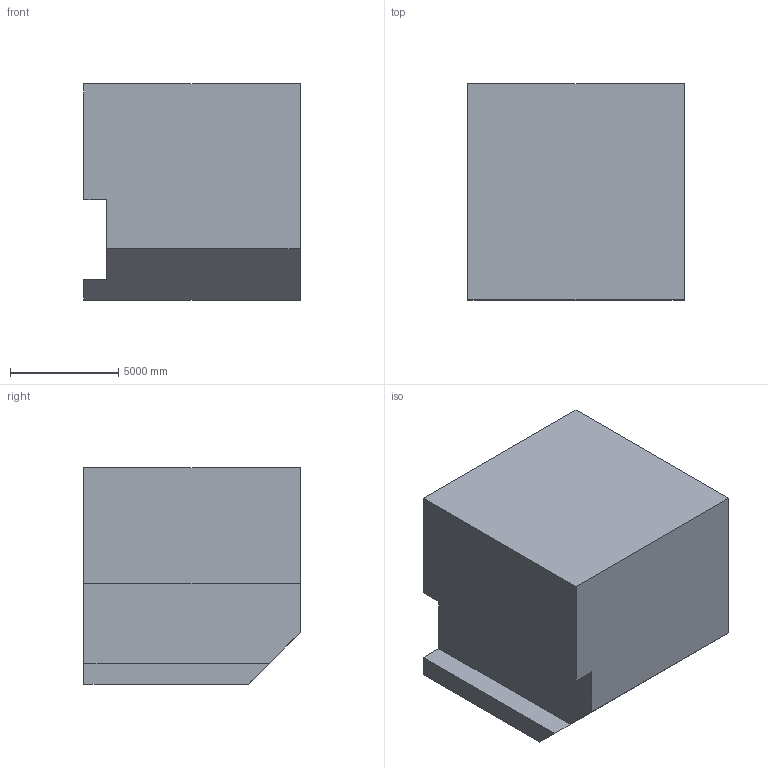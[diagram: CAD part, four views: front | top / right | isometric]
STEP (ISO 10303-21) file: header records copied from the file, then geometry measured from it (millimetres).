
FILE_DESCRIPTION (( 'STEP AP203' ), '1' );
FILE_NAME ('174.STEP', '2022-07-28T13:48:46', ( 'user' ), ( '' ), 'SwSTEP 2.0', 'SolidWorks 2021', '' );
FILE_SCHEMA (( 'CONFIG_CONTROL_DESIGN' ));
Length unit declared in the file: centimetre
Products named in the file (1): 174
Bounding box: 10000 x 10000 x 10000 mm (x, y, z)
Volume: 935179303142.5 mm3; surface area: 591472817.7 mm2
Topology: 1 solids, 1 shells, 11 faces, 27 edges, 18 vertices
Faces by surface type: plane 11
Entity records: 398 total; most frequent: CARTESIAN_POINT 57, ORIENTED_EDGE 54, DIRECTION 51, LINE 27, VECTOR 27, EDGE_CURVE 27, VERTEX_POINT 18, AXIS2_PLACEMENT_3D 12
